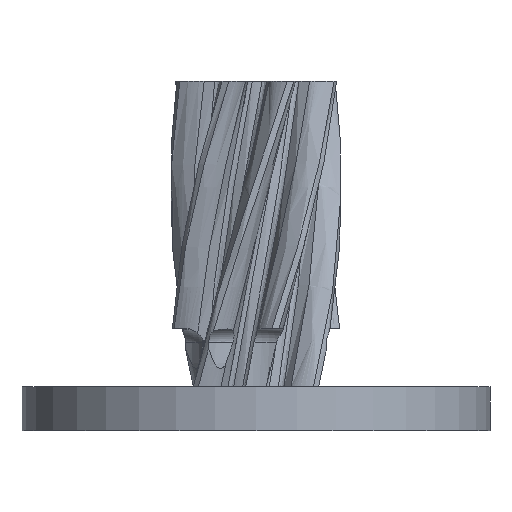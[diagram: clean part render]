
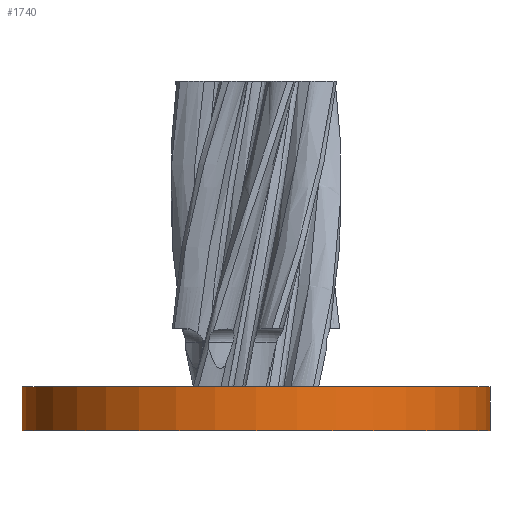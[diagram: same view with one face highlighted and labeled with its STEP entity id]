
A CAD part, front view. The second image highlights one B-rep face of the part: STEP entity #1740.
In plain terms, the highlighted cylindrical face has radius 12.7 mm (diameter 25.4 mm), a full revolution.
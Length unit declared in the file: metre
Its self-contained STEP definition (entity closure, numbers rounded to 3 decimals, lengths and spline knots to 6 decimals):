
#74=CIRCLE('',#1814,0.0127);
#75=CIRCLE('',#1815,0.0127);
#113=CYLINDRICAL_SURFACE('',#1813,0.0127);
#552=ORIENTED_EDGE('',*,*,#976,.F.);
#553=ORIENTED_EDGE('',*,*,#977,.T.);
#976=EDGE_CURVE('',#1184,#1184,#74,.T.);
#977=EDGE_CURVE('',#1185,#1185,#75,.T.);
#1184=VERTEX_POINT('',#7098);
#1185=VERTEX_POINT('',#7100);
#1445=EDGE_LOOP('',(#552));
#1446=EDGE_LOOP('',(#553));
#1563=FACE_BOUND('',#1445,.T.);
#1564=FACE_BOUND('',#1446,.T.);
#1740=ADVANCED_FACE('',(#1563,#1564),#113,.T.);
#1813=AXIS2_PLACEMENT_3D('',#7096,#1945,#1946);
#1814=AXIS2_PLACEMENT_3D('',#7097,#1947,#1948);
#1815=AXIS2_PLACEMENT_3D('',#7099,#1949,#1950);
#1945=DIRECTION('',(0.,0.,-1.));
#1946=DIRECTION('',(-1.,0.,0.));
#1947=DIRECTION('',(0.,0.,1.));
#1948=DIRECTION('',(1.,0.,0.));
#1949=DIRECTION('',(0.,0.,1.));
#1950=DIRECTION('',(1.,0.,0.));
#7096=CARTESIAN_POINT('',(0.,0.,0.039072));
#7097=CARTESIAN_POINT('',(0.,0.,0.039072));
#7098=CARTESIAN_POINT('',(0.0127,0.,0.039072));
#7099=CARTESIAN_POINT('',(0.,0.,0.036691));
#7100=CARTESIAN_POINT('',(0.0127,0.,0.036691));
